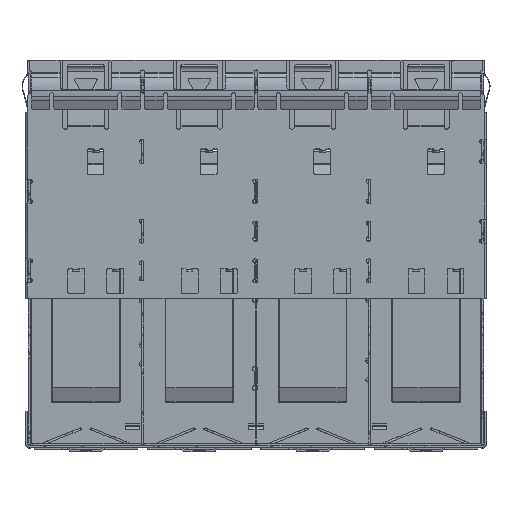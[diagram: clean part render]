
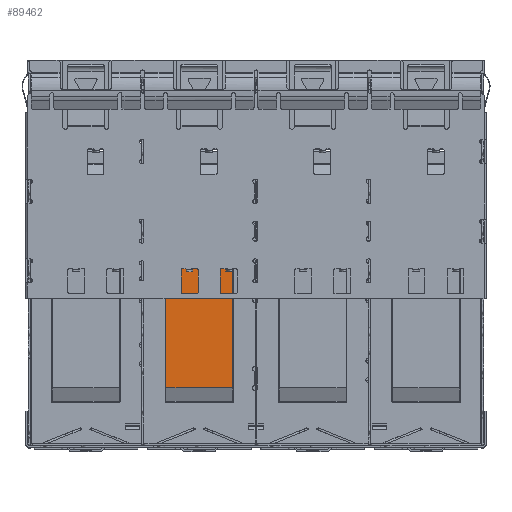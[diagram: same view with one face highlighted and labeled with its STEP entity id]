
A CAD part, front view. The second image highlights one B-rep face of the part: STEP entity #89462.
In plain terms, the highlighted planar face has unit normal (0, -1, 0).
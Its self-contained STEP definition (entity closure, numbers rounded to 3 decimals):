
#84878=CARTESIAN_POINT('',(-9.514,8.918,40.969));
#84879=VERTEX_POINT('',#84878);
#84886=CARTESIAN_POINT('',(-9.514,8.918,67.4));
#84887=VERTEX_POINT('',#84886);
#84888=CARTESIAN_POINT('',(-9.514,8.918,40.969));
#84889=DIRECTION('',(0.,0.,1.));
#84890=VECTOR('',#84889,26.431);
#84891=LINE('',#84888,#84890);
#84892=EDGE_CURVE('',#84879,#84887,#84891,.T.);
#84956=CARTESIAN_POINT('',(-1.114,8.918,67.4));
#84957=VERTEX_POINT('',#84956);
#84964=CARTESIAN_POINT('',(-1.114,8.918,40.969));
#84965=VERTEX_POINT('',#84964);
#84966=CARTESIAN_POINT('',(-1.114,8.918,67.4));
#84967=DIRECTION('',(0.,0.,-1.));
#84968=VECTOR('',#84967,26.431);
#84969=LINE('',#84966,#84968);
#84970=EDGE_CURVE('',#84957,#84965,#84969,.T.);
#89435=CARTESIAN_POINT('',(-1.114,8.918,40.969));
#89436=DIRECTION('',(-1.,0.,0.));
#89437=VECTOR('',#89436,8.4);
#89438=LINE('',#89435,#89437);
#89439=EDGE_CURVE('',#84965,#84879,#89438,.T.);
#89446=CARTESIAN_POINT('',(-9.514,8.918,67.4));
#89447=DIRECTION('',(0.,0.,-1.));
#89448=DIRECTION('',(0.,-1.,0.));
#89449=AXIS2_PLACEMENT_3D('',#89446,#89448,#89447);
#89450=PLANE('',#89449);
#89451=ORIENTED_EDGE('',*,*,#84970,.F.);
#89452=CARTESIAN_POINT('',(-1.114,8.918,67.4));
#89453=DIRECTION('',(-1.,0.,0.));
#89454=VECTOR('',#89453,8.4);
#89455=LINE('',#89452,#89454);
#89456=EDGE_CURVE('',#84957,#84887,#89455,.T.);
#89457=ORIENTED_EDGE('E7955',*,*,#89456,.T.);
#89458=ORIENTED_EDGE('E7955',*,*,#84892,.F.);
#89459=ORIENTED_EDGE('E7955',*,*,#89439,.F.);
#89460=EDGE_LOOP('',(#89451,#89457,#89458,#89459));
#89461=FACE_OUTER_BOUND('',#89460,.T.);
#89462=ADVANCED_FACE('F2550',(#89461),#89450,.T.);
